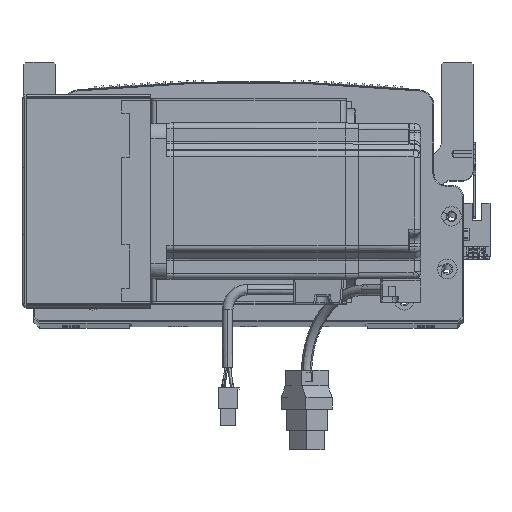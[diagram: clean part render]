
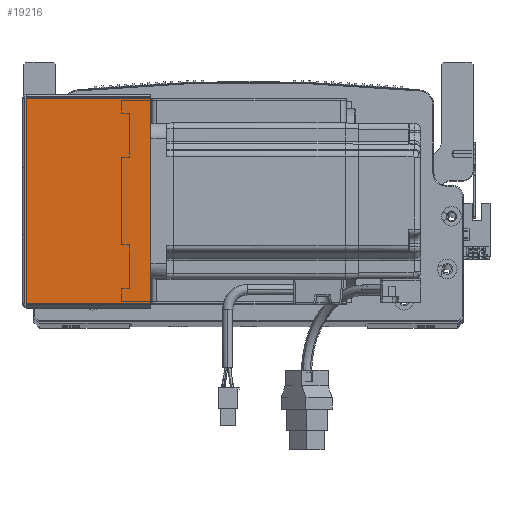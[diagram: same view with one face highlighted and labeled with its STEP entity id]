
A CAD part, top view. The second image highlights one B-rep face of the part: STEP entity #19216.
In plain terms, the highlighted planar face has unit normal (0, 0, 1) as drawn and (0, 0, -1) by its records, which use the part's own axes.
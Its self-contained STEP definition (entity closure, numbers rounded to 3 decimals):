
#368 = CARTESIAN_POINT ( 'NONE',  ( 64.5, 0., -205.5 ) ) ;
#3738 = CARTESIAN_POINT ( 'NONE',  ( 64.5, 0.707, -205.5 ) ) ;
#5411 = VECTOR ( 'NONE', #19504, 1000. ) ;
#5988 = VERTEX_POINT ( 'NONE', #50662 ) ;
#6424 = EDGE_LOOP ( 'NONE', ( #58160, #58857, #55383, #70616 ) ) ;
#8886 = CARTESIAN_POINT ( 'NONE',  ( 0.737, 105.293, -205.5 ) ) ;
#11934 = VECTOR ( 'NONE', #67012, 1000. ) ;
#15079 = LINE ( 'NONE', #61400, #11934 ) ;
#19216 = ADVANCED_FACE ( 'NONE', ( #86079 ), #46384, .F. ) ;
#19504 = DIRECTION ( 'NONE',  ( 0., -1., 0. ) ) ;
#21212 = DIRECTION ( 'NONE',  ( 0., -1., 0. ) ) ;
#22979 = VERTEX_POINT ( 'NONE', #85541 ) ;
#28984 = DIRECTION ( 'NONE',  ( 1., 0., 0. ) ) ;
#33493 = EDGE_CURVE ( 'NONE', #22979, #45870, #36678, .T. ) ;
#36678 = LINE ( 'NONE', #368, #56967 ) ;
#38508 = DIRECTION ( 'NONE',  ( 1., 0., 0. ) ) ;
#42005 = EDGE_CURVE ( 'NONE', #80916, #5988, #75584, .T. ) ;
#42402 = DIRECTION ( 'NONE',  ( 0., 0., 1. ) ) ;
#43897 = AXIS2_PLACEMENT_3D ( 'NONE', #67973, #42402, #28984 ) ;
#45870 = VERTEX_POINT ( 'NONE', #3738 ) ;
#46384 = PLANE ( 'NONE',  #43897 ) ;
#50662 = CARTESIAN_POINT ( 'NONE',  ( 0.737, 0.707, -205.5 ) ) ;
#51925 = CARTESIAN_POINT ( 'NONE',  ( 0., 0.707, -205.5 ) ) ;
#55383 = ORIENTED_EDGE ( 'NONE', *, *, #33493, .T. ) ;
#56967 = VECTOR ( 'NONE', #21212, 1000. ) ;
#58160 = ORIENTED_EDGE ( 'NONE', *, *, #42005, .F. ) ;
#58857 = ORIENTED_EDGE ( 'NONE', *, *, #85870, .T. ) ;
#60126 = EDGE_CURVE ( 'NONE', #5988, #45870, #79829, .T. ) ;
#60572 = CARTESIAN_POINT ( 'NONE',  ( 0.737, 0., -205.5 ) ) ;
#61400 = CARTESIAN_POINT ( 'NONE',  ( 0., 105.293, -205.5 ) ) ;
#67012 = DIRECTION ( 'NONE',  ( 1., 0., 0. ) ) ;
#67973 = CARTESIAN_POINT ( 'NONE',  ( 0., 0., -205.5 ) ) ;
#70616 = ORIENTED_EDGE ( 'NONE', *, *, #60126, .F. ) ;
#75584 = LINE ( 'NONE', #60572, #5411 ) ;
#79829 = LINE ( 'NONE', #51925, #83109 ) ;
#80916 = VERTEX_POINT ( 'NONE', #8886 ) ;
#83109 = VECTOR ( 'NONE', #38508, 1000. ) ;
#85541 = CARTESIAN_POINT ( 'NONE',  ( 64.5, 105.293, -205.5 ) ) ;
#85870 = EDGE_CURVE ( 'NONE', #80916, #22979, #15079, .T. ) ;
#86079 = FACE_OUTER_BOUND ( 'NONE', #6424, .T. ) ;
